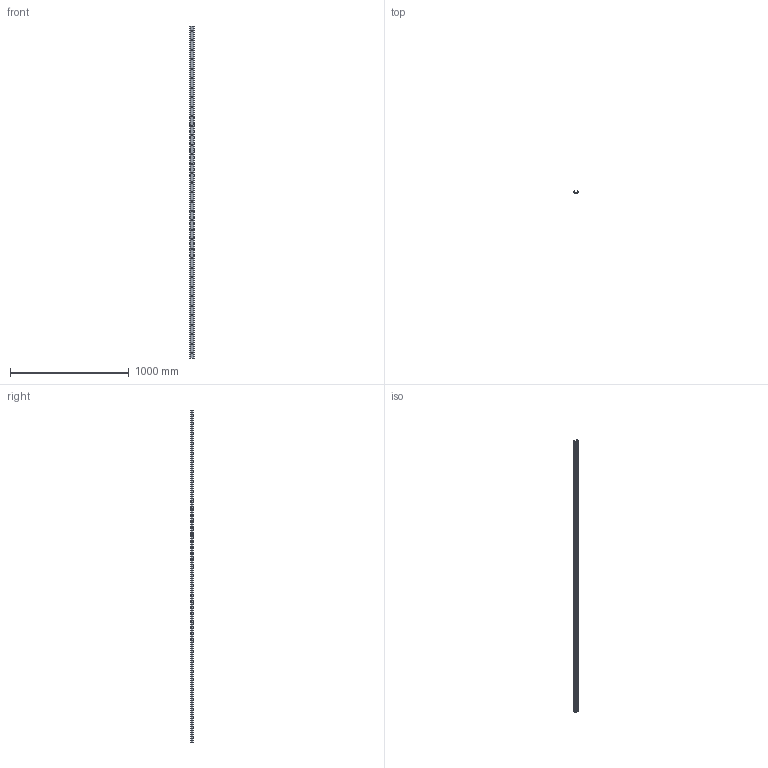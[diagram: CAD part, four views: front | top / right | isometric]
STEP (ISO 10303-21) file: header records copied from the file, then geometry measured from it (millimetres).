
FILE_DESCRIPTION(('STEP AP214'),'1');
FILE_NAME('rail_tex40-2800.stp','2019-03-08T08:33:44',('TraceParts'),('TraceParts S.A.'),'Spatial InterOp 3D',' ',' ');
FILE_SCHEMA(('automotive_design'));
Length unit declared in the file: millimetre
Products named in the file (1): rail_tex40-2800
Bounding box: 39.53 x 21 x 2800 mm (x, y, z)
Volume: 547448.3 mm3; surface area: 385598.8 mm2
Topology: 1 solids, 1 shells, 609 faces, 1578 edges, 1052 vertices
Faces by surface type: plane 428, bspline 99, cylinder 82
Entity records: 38603 total; most frequent: CARTESIAN_POINT 19143, ORIENTED_EDGE 3156, DIRECTION 2566, EDGE_CURVE 1578, LINE 1216, VECTOR 1216, VERTEX_POINT 1052, EDGE_LOOP 760
